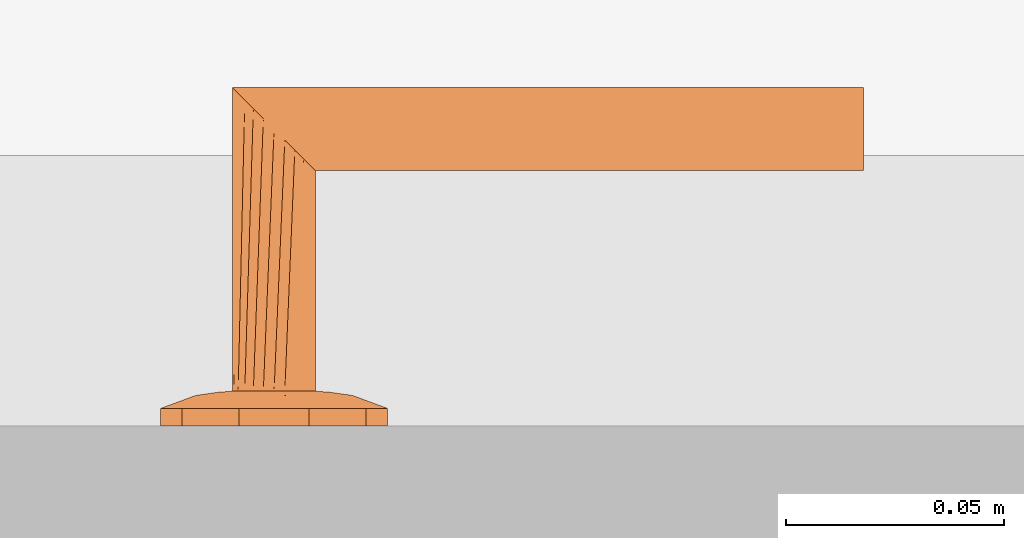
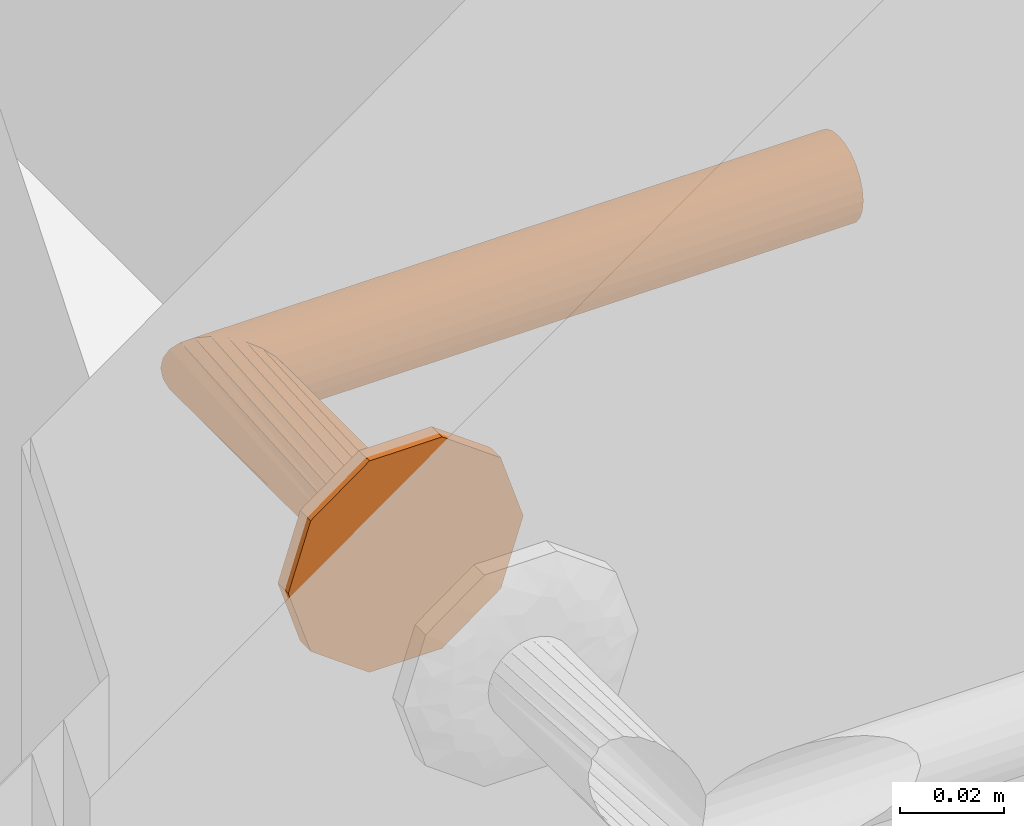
# One storey, part 44 of 57: 1 proxy.
"""IFC2X3 building model written with IfcOpenShell, lengths in millimetres."""

from ifc_helpers import new_model, entity, si_unit, converted_unit, direction, frame, origin, place, context, subcontext, project, spatial, faceted_brep, source, transform, mapped, material, type_object, type_shapes, element, save


model = new_model("IFC2X3")

# Units and contexts
model_context = context("Model", 3, precision=0.01, world=origin(), true_north=direction((6.123233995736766e-17, 1.0)))
plan_context = context("Plan", 3, precision=0.01, world=origin(), true_north=direction((6.123233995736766e-17, 1.0)))
body_context = subcontext(model_context, "Body", "Model", "MODEL_VIEW")
ifc_project = project(units=[si_unit("LENGTHUNIT", "METRE", prefix="MILLI"), converted_unit("PLANEANGLEUNIT", "DEGREE", entity("IfcPlaneAngleMeasure", 0.017453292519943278), si_unit("PLANEANGLEUNIT", "RADIAN"), dimensions=[0, 0, 0, 0, 0, 0, 0]), si_unit("AREAUNIT", "SQUARE_METRE")], contexts=[model_context, plan_context])

# Site, building, storey
site_placement = place(None, origin())
site = spatial("IfcSite", under=ifc_project, at=site_placement, Name="Default", CompositionType="ELEMENT")
building_placement = place(site_placement, origin())
building = spatial("IfcBuilding", under=site, at=building_placement, CompositionType="ELEMENT")
storey_placement = place(building_placement, frame((0.0, 0.0, 12811.000000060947)))
storey = spatial("IfcBuildingStorey", under=building, at=storey_placement, Name="5K", CompositionType="ELEMENT", Elevation=12811.000000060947)

# Proxy
ifc_material = material(Name="<Unnamed>")
building_element_proxy_type = type_object("IfcBuildingElementProxyType", Name="Door-handle_Lever_ABLOY_INOXI_3-19ss-002_RT:Default", PredefinedType="NOTDEFINED", material=ifc_material)
shared_shape = source(origin(), body_context, "Body", "Brep", [
    faceted_brep([(0.0, 0.0, 0.0), (21.034441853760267, -15.282416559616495, 0.0), (14.534441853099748, -20.00494299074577, 0.0), (8.034441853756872, -24.72746942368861, 0.0), (0.0, -24.72746942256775, 0.0), (23.51722092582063, -7.6412082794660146, 0.0), (26.0, 0.0, 0.0), (-8.034441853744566, -24.727469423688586, 0.0), (-14.534441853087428, -20.00494299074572, 0.0), (-21.03444185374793, -15.282416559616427, 0.0), (-23.517220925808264, -7.641208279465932, 0.0), (-26.0, 0.0, 0.0), (-23.517220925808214, 7.641208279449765, 0.0), (23.517220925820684, 7.641208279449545, 0.0), (21.034441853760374, 15.282416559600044, 0.0), (14.53444185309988, 20.00494299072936, 0.0), (8.034441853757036, 24.72746942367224, 0.0), (-21.034441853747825, 15.282416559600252, 0.0), (-14.53444185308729, 20.004942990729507, 0.0), (-8.0344418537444, 24.72746942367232, 0.0), (0.0, 24.72746942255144, 0.0), (0.0, 0.0, 8.0), (4.7500000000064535, -8.227241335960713, 8.0), (5.937500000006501, -6.170431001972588, 8.0), (7.125000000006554, -4.113620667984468, 8.0), (8.312500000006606, -2.0568103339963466, 8.0), (9.500000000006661, 0.0, 8.0), (8.312500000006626, 2.056810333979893, 8.0), (2.3750000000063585, -8.227241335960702, 8.0), (0.0, -8.227241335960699, 8.0), (-2.3749999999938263, -8.227241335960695, 8.0), (-4.749999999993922, -8.227241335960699, 8.0), (-5.937499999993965, -6.170431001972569, 8.0), (-7.124999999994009, -4.113620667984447, 8.0), (-8.312499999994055, -2.056810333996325, 8.0), (-9.499999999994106, 0.0, 8.0), (7.125000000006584, 4.113620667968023, 8.0), (5.937500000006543, 6.170431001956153, 8.0), (4.750000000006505, 8.227241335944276, 8.0), (2.3750000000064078, 8.22724133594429, 8.0), (-8.31249999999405, 2.0568103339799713, 8.0), (-7.12499999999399, 4.113620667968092, 8.0), (-5.9374999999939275, 6.170431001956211, 8.0), (-4.74999999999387, 8.227241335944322, 8.0), (0.0, 8.227241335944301, 8.0), (-2.374999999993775, 8.227241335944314, 8.0), (-22.488765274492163, -10.806469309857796, 4.030771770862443), (-16.663919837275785, -7.932665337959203, 6.877259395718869), (-20.643071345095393, -6.292822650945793, 5.929480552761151), (-12.50457926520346, -5.179566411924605, 7.774932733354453), (-16.764060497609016, -3.820257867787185, 7.1747985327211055), (-9.071726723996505, -10.311606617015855, 7.7520782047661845), (-11.963426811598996, -8.625290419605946, 7.618343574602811), (-11.979136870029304, -13.678312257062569, 6.945778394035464), (5.7585542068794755, -20.96753300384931, 5.871476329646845), (0.0, -24.72746942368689, 4.030771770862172), (8.03444185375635, -24.727469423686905, 4.030771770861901), (16.66391982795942, -7.932665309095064, 6.877259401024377), (22.488765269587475, -10.806469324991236, 4.03077177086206), (20.64307133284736, -6.29282258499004, 5.929480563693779), (14.534441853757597, -20.004942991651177, 4.030771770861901), (9.499431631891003, -18.64368355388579, 6.154325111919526), (-15.783149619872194, -11.991003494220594, 6.50080018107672), (-21.034441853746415, -15.282416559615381, 4.030771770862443), (-14.53444185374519, -20.00494299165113, 4.030771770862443), (-23.012042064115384, 0.0, 5.135401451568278), (-23.943088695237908, -6.330522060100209, 4.030771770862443), (11.96342678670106, -8.62529049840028, 7.618343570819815), (12.504579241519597, -5.179566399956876, 7.774932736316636), (16.764060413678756, -3.8202578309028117, 7.17479855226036), (15.783149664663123, -11.991003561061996, 6.50080015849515), (17.985351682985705, 0.0, 6.993737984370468), (23.012042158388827, 0.0, 5.135401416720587), (8.661516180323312, -10.478936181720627, 7.768126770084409), (-8.03444185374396, -24.727469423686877, 4.030771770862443), (-3.3573143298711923, -21.197247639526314, 5.971427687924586), (-9.941915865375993, -17.061976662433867, 6.522757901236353), (-5.973257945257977, -16.430139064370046, 7.110979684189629), (-7.711266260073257, -12.760344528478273, 7.594456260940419), (11.979136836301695, -13.678312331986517, 6.945778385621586), (7.511307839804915, -13.358932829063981, 7.529187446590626), (5.953298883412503, -16.50608604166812, 7.096344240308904), (-1.5654593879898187, -15.307443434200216, 7.519134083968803), (-7.784980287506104, -20.476295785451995, 5.812837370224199), (2.8135289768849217, -17.76392260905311, 6.993737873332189), (-17.98535168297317, 0.0, 6.993737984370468), (-26.0, 0.0, 4.030771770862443), (-23.51722092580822, -7.641208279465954, 4.030771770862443), (23.943088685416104, -6.33052209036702, 4.030771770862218), (24.308823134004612, -5.204907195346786, 4.030771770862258), (26.0, 0.0, 4.030771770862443), (21.03444185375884, -15.282416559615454, 4.030771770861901), (22.617646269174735, -10.40981439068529, 4.030771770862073), (22.488765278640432, 10.806469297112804, 4.030771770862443), (16.66391984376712, 7.932665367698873, 6.877259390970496), (20.643071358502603, 6.292822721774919, 5.929480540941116), (12.504579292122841, 5.179566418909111, 7.774932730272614), (16.764060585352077, 3.8202579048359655, 7.174798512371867), (9.07172672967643, 10.31160659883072, 7.752078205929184), (11.963426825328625, 8.62529034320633, 7.618343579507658), (11.979136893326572, 13.67831220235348, 6.9457784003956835), (-5.758554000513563, 20.96753314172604, 5.8714763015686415), (0.0, 24.72746942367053, 4.030771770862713), (-8.03444185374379, 24.72746942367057, 4.030771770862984), (-16.663919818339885, 7.932665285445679, 6.877259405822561), (-22.48876526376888, 10.806469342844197, 4.030771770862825), (-20.643071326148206, 6.2928225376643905, 5.929480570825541), (-14.534441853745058, 20.004942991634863, 4.030771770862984), (-9.499431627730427, 18.643683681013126, 6.154325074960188), (15.783149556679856, 11.991003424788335, 6.5008002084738), (21.03444185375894, 15.282416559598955, 4.030771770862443), (14.534441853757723, 20.004942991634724, 4.030771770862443), (23.943088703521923, 6.330522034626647, 4.030771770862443), (-11.96342675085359, 8.625290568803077, 7.618343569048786), (-12.504579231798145, 5.179566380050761, 7.77493273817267), (-16.764060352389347, 3.820257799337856, 7.174798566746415), (-15.78314967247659, 11.991003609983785, 6.500800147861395), (-8.661516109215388, 10.478936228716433, 7.768126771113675), (8.034441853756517, 24.727469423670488, 4.030771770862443), (3.3573144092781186, 21.197247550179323, 5.971427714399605), (9.941915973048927, 17.061976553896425, 6.522757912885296), (5.9732581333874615, 16.430139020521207, 7.110979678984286), (7.711266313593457, 12.760344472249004, 7.5944562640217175), (-11.979136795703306, 13.678312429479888, 6.945778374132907), (-7.511307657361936, 13.358932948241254, 7.5291874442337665), (-5.9532988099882, 16.50608628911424, 7.096344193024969), (1.5654596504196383, 15.3074431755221, 7.519134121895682), (7.784980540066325, 20.476295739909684, 5.812837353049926), (-2.81352881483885, 17.76392263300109, 6.993737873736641), (23.51722092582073, 7.6412082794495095, 4.030771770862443), (-23.94308867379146, 6.330522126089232, 4.030771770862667), (-24.308823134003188, 5.20490719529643, 4.030771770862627), (-21.034441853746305, 15.282416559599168, 4.030771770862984), (-22.617646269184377, 10.409814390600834, 4.0307717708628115)], [[[0, 1, 2]], [[0, 2, 3]], [[0, 3, 4]], [[0, 5, 1]], [[0, 6, 5]], [[0, 4, 7]], [[0, 7, 8]], [[0, 8, 9]], [[0, 9, 10]], [[0, 10, 11]], [[0, 11, 12]], [[0, 13, 6]], [[0, 14, 13]], [[0, 15, 14]], [[0, 16, 15]], [[0, 12, 17]], [[0, 17, 18]], [[0, 18, 19]], [[0, 19, 20]], [[0, 20, 16]], [[21, 22, 23]], [[21, 23, 24]], [[21, 24, 25]], [[21, 25, 26]], [[21, 26, 27]], [[21, 28, 22]], [[21, 29, 28]], [[21, 30, 29]], [[21, 31, 30]], [[21, 32, 31]], [[21, 33, 32]], [[21, 34, 33]], [[21, 35, 34]], [[21, 27, 36]], [[21, 36, 37]], [[21, 37, 38]], [[21, 38, 39]], [[21, 40, 35]], [[21, 41, 40]], [[21, 42, 41]], [[21, 43, 42]], [[21, 39, 44]], [[21, 44, 45]], [[21, 45, 43]], [[46, 47, 48]], [[47, 49, 50]], [[49, 33, 34]], [[51, 52, 53]], [[49, 52, 33]], [[48, 47, 50]], [[54, 55, 56]], [[57, 58, 59]], [[56, 60, 61]], [[62, 63, 64]], [[65, 66, 48]], [[67, 57, 68]], [[68, 69, 25]], [[57, 67, 70]], [[69, 26, 25]], [[62, 53, 52]], [[71, 69, 72]], [[67, 23, 73]], [[74, 55, 75]], [[76, 77, 78]], [[79, 60, 70]], [[69, 59, 72]], [[80, 81, 61]], [[77, 30, 78]], [[82, 30, 77]], [[28, 80, 22]], [[77, 83, 75]], [[75, 82, 77]], [[55, 84, 75]], [[85, 50, 35]], [[24, 68, 25]], [[82, 84, 29]], [[84, 82, 75]], [[31, 78, 30]], [[82, 29, 30]], [[34, 35, 50]], [[52, 49, 47]], [[62, 52, 47]], [[34, 50, 49]], [[53, 78, 51]], [[32, 33, 52]], [[85, 65, 50]], [[66, 65, 86]], [[67, 68, 24]], [[77, 76, 83]], [[65, 48, 50]], [[63, 62, 46]], [[48, 66, 87, 46]], [[62, 47, 46]], [[69, 68, 57]], [[80, 73, 22]], [[70, 67, 79]], [[67, 24, 23]], [[72, 88, 89, 90]], [[69, 71, 26]], [[59, 69, 57]], [[61, 60, 79]], [[62, 64, 53]], [[91, 58, 70]], [[72, 59, 88]], [[57, 70, 58]], [[59, 58, 92]], [[80, 61, 79]], [[91, 70, 60]], [[61, 81, 54]], [[73, 80, 79]], [[28, 84, 81]], [[67, 73, 79]], [[29, 84, 28]], [[22, 73, 23]], [[51, 31, 32]], [[76, 78, 53]], [[53, 64, 76]], [[83, 64, 74]], [[64, 83, 76]], [[75, 83, 74]], [[31, 51, 78]], [[52, 51, 32]], [[28, 81, 80]], [[54, 81, 84]], [[55, 54, 84]], [[61, 54, 56]], [[93, 94, 95]], [[94, 96, 97]], [[96, 36, 27]], [[98, 99, 100]], [[96, 99, 36]], [[95, 94, 97]], [[101, 102, 103]], [[104, 105, 106]], [[103, 107, 108]], [[109, 110, 111]], [[72, 112, 95]], [[113, 104, 114]], [[114, 115, 40]], [[104, 113, 116]], [[115, 35, 40]], [[109, 100, 99]], [[85, 115, 65]], [[113, 42, 117]], [[118, 102, 119]], [[120, 121, 122]], [[123, 107, 116]], [[115, 106, 65]], [[124, 125, 108]], [[121, 39, 122]], [[126, 39, 121]], [[45, 124, 43]], [[121, 127, 119]], [[119, 126, 121]], [[102, 128, 119]], [[71, 97, 26]], [[41, 114, 40]], [[126, 128, 44]], [[128, 126, 119]], [[38, 122, 39]], [[126, 44, 39]], [[27, 26, 97]], [[99, 96, 94]], [[109, 99, 94]], [[27, 97, 96]], [[100, 122, 98]], [[37, 36, 99]], [[71, 72, 97]], [[112, 72, 90]], [[113, 114, 41]], [[121, 120, 127]], [[72, 95, 97]], [[110, 109, 93]], [[95, 112, 129, 93]], [[109, 94, 93]], [[115, 114, 104]], [[124, 117, 43]], [[116, 113, 123]], [[113, 41, 42]], [[65, 130, 131, 86]], [[115, 85, 35]], [[106, 115, 104]], [[108, 107, 123]], [[109, 111, 100]], [[132, 105, 116]], [[65, 106, 130]], [[104, 116, 105]], [[106, 105, 133]], [[124, 108, 123]], [[132, 116, 107]], [[108, 125, 101]], [[117, 124, 123]], [[45, 128, 125]], [[113, 117, 123]], [[44, 128, 45]], [[43, 117, 42]], [[98, 38, 37]], [[120, 122, 100]], [[100, 111, 120]], [[127, 111, 118]], [[111, 127, 120]], [[119, 127, 118]], [[38, 98, 122]], [[99, 98, 37]], [[45, 125, 124]], [[101, 125, 128]], [[102, 101, 128]], [[108, 101, 103]], [[7, 74, 64, 63, 9, 8]], [[10, 9, 63, 46, 87, 66, 86, 11]], [[6, 90, 89, 88, 92, 1, 5]], [[1, 58, 91]], [[74, 7, 4, 3, 56, 55]], [[60, 56, 3, 2, 1, 91]], [[1, 92, 58]], [[14, 110, 93, 129, 112, 90, 6, 13]], [[111, 110, 14, 15, 16, 118]], [[11, 86, 131, 130, 133, 17, 12]], [[17, 105, 132]], [[118, 16, 20, 19, 103, 102]], [[107, 103, 19, 18, 17, 132]], [[17, 133, 105]], [[59, 92, 88]], [[106, 133, 130]]]),
    faceted_brep([(4.7499999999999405, -8.22724133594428, 8.0), (2.4587809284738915, -9.176295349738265, 8.0), (0.0, -9.499999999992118, 8.0), (-2.4587809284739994, -9.176295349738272, 8.0), (-4.7500000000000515, -8.227241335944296, 8.0), (-6.717514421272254, -6.717514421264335, 8.0), (-8.227241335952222, -4.74999999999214, 8.0), (-9.176295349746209, -2.4587809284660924, 8.0), (-9.500000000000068, 0.0, 8.0), (-9.176295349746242, 2.458780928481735, 8.0), (-8.227241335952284, 4.750000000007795, 8.0), (-6.717514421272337, 6.717514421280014, 8.0), (-4.750000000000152, 8.227241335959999, 8.0), (-2.4587809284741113, 9.176295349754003, 8.0), (0.0, 9.500000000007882, 8.0), (2.4587809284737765, 9.176295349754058, 8.0), (4.7499999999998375, 8.227241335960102, 8.0), (6.717514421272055, 6.717514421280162, 8.0), (8.22724133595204, 4.75000000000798, 8.0), (9.17629534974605, 2.458780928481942, 8.0), (9.499999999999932, 0.0, 8.0), (9.17629534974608, -2.458780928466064, 8.0), (8.227241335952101, -4.749999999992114, 8.0), (6.717514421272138, -6.7175144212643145, 8.0), (-8.227241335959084, 4.7499999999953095, 59.772758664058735), (-6.717514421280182, 6.7175144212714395, 61.282485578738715), (-9.176295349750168, 2.458780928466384, 58.82370465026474), (-4.750000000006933, 8.227241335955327, 63.25000000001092), (-2.4587809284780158, 9.176295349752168, 65.54121907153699), (-9.500000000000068, 0.0, 58.50000000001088), (0.0, 9.50000000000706, 68.0), (4.750000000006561, 8.227241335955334, 72.75000000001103), (2.4587809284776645, 9.17629534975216, 70.45878092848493), (6.717514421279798, 6.7175144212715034, 74.71751442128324), (8.22724133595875, 4.749999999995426, 76.22724133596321), (9.17629534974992, 2.458780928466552, 77.17629534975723), (9.499999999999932, 0.0, 77.50000000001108), (9.176295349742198, -2.4587809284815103, 77.1762953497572), (8.227241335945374, -4.750000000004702, 76.22724133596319), (6.7175144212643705, -6.717514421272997, 74.7175144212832), (4.749999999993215, -8.227241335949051, 72.75000000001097), (2.4587809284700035, -9.17629534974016, 70.45878092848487), (0.0, -9.49999999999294, 68.0), (-2.4587809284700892, -9.176295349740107, 65.54121907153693), (-4.749999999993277, -8.227241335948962, 63.250000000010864), (-6.717514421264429, -6.717514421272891, 61.282485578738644), (-9.176295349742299, -2.458780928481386, 58.8237046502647), (-8.227241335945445, -4.750000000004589, 59.77275866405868), (-135.0, -9.176295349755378, 70.4587809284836), (-135.0, -8.227241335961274, 72.75000000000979), (-135.0, -6.717514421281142, 74.71751442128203), (-135.0, -4.750000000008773, 76.22724133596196), (-135.0, -2.4587809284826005, 77.17629534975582), (-135.0, 0.0, 77.5000000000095), (-135.0, 2.4587809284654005, 77.17629534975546), (-135.0, 4.749999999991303, 76.22724133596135), (-135.0, 6.717514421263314, 74.71751442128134), (-135.0, 8.227241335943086, 72.75000000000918), (-135.0, 9.17629534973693, 70.45878092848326), (-135.0, 9.499999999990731, 68.0), (-135.0, 9.17629534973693, 65.54121907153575), (-135.0, 8.227241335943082, 63.250000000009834), (-135.0, 6.717514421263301, 61.28248557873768), (-135.0, 4.749999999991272, 59.772758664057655), (-135.0, 2.458780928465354, 58.823704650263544), (-135.0, 0.0, 58.50000000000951), (-135.0, -2.458780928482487, 58.82370465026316), (-135.0, -4.750000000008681, 59.772758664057), (-135.0, -6.7175144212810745, 61.28248557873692), (-135.0, -8.227241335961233, 63.25000000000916), (-135.0, -9.176295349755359, 65.54121907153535), (-135.0, -9.500000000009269, 68.0)], [[[0, 1, 2, 3, 4, 5, 6, 7, 8, 9, 10, 11, 12, 13, 14, 15, 16, 17, 18, 19, 20, 21, 22, 23]], [[24, 25, 11, 10]], [[26, 24, 10, 9]], [[14, 27, 28]], [[13, 27, 14]], [[25, 27, 13]], [[29, 26, 9, 8]], [[12, 11, 25]], [[25, 13, 12]], [[28, 30, 15]], [[31, 17, 32]], [[33, 18, 31]], [[19, 34, 35]], [[33, 34, 19]], [[20, 19, 35, 36]], [[16, 15, 30]], [[14, 28, 15]], [[19, 18, 33]], [[17, 31, 18]], [[17, 16, 32]], [[30, 32, 16]], [[20, 36, 37, 21]], [[38, 21, 37]], [[22, 39, 40]], [[38, 39, 21]], [[23, 40, 41]], [[39, 22, 21]], [[1, 42, 43]], [[42, 1, 0]], [[23, 41, 0]], [[23, 22, 40]], [[41, 42, 0]], [[44, 45, 3]], [[43, 44, 2]], [[46, 29, 8, 7]], [[47, 46, 7, 6]], [[45, 47, 6, 5]], [[45, 4, 3]], [[3, 2, 44]], [[5, 4, 45]], [[43, 2, 1]], [[48, 49, 50, 51, 52, 53, 54, 55, 56, 57, 58, 59, 60, 61, 62, 63, 64, 65, 66, 67, 68, 69, 70, 71]], [[64, 63, 24, 26]], [[65, 64, 26, 29]], [[61, 60, 28, 27]], [[62, 61, 27, 25]], [[63, 62, 25, 24]], [[59, 30, 28, 60]], [[57, 56, 33, 31]], [[58, 57, 31, 32]], [[54, 53, 36, 35]], [[55, 54, 35, 34]], [[56, 55, 34, 33]], [[32, 30, 59, 58]], [[52, 51, 38, 37]], [[53, 52, 37, 36]], [[49, 48, 41, 40]], [[50, 49, 40, 39]], [[51, 50, 39, 38]], [[42, 41, 48, 71]], [[69, 68, 45, 44]], [[70, 69, 44, 43]], [[66, 65, 29, 46]], [[67, 66, 46, 47]], [[68, 67, 47, 45]], [[42, 71, 70, 43]]]),
])
type_shapes(building_element_proxy_type, [shared_shape])
proxy_placement = place(storey_placement, frame((7628.0, 4838.0, 1000.0), z_axis=(0.0, 1.0, 0.0), x_axis=(-1.0, 0.0, 0.0)))
element("IfcBuildingElementProxy", 1, at=proxy_placement, inside=storey, type_object=building_element_proxy_type, material=ifc_material, Name="Door-handle_Lever_ABLOY_INOXI_3-19ss-002_RT:Default", ObjectType="Door-handle_Lever_ABLOY_INOXI_3-19ss-002_RT:Default", context=body_context, shape_type="MappedRepresentation", body=[
    mapped(shared_shape, transform((0.0, 0.0, 0.0), scale=1.0)),
])

save(model, "model.ifc")
